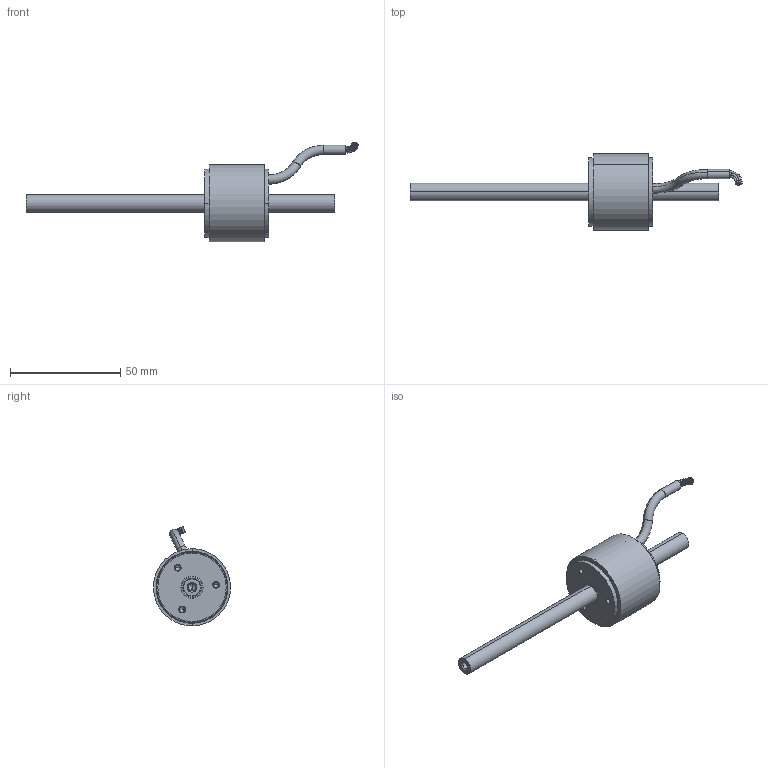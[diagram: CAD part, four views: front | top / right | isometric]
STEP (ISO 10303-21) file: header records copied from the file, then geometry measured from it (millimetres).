
FILE_DESCRIPTION (( 'STEP AP214' ), '1' );
FILE_NAME ('LinACE_d8_axial.STEP', '2021-03-05T10:35:52', ( '' ), ( '' ), 'SwSTEP 2.0', 'SolidWorks 2020', '' );
FILE_SCHEMA (( 'AUTOMOTIVE_DESIGN' ));
Length unit declared in the file: millimetre
Products named in the file (1): LinACE_d8_axial
Bounding box: 150.53 x 34.89 x 45.16 mm (x, y, z)
Volume: 23960.8 mm3; surface area: 19066.2 mm2
Topology: 8 solids, 8 shells, 313 faces, 705 edges, 428 vertices
Faces by surface type: cylinder 141, plane 81, cone 67, torus 24
Entity records: 12541 total; most frequent: CARTESIAN_POINT 1799, DIRECTION 1661, ORIENTED_EDGE 1366, EDGE_CURVE 683, AXIS2_PLACEMENT_3D 682, VERTEX_POINT 428, EDGE_LOOP 373, CIRCLE 368
